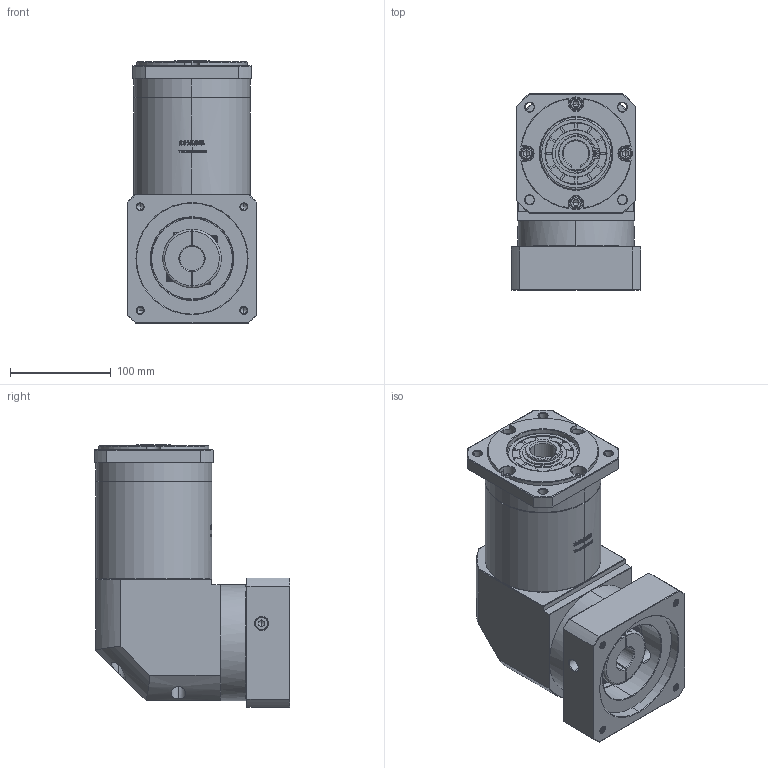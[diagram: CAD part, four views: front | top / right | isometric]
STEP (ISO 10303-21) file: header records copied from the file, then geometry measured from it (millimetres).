
FILE_DESCRIPTION (( 'STEP AP214' ), '1' );
FILE_NAME ('ZFR120A-K25-L3-24-110-145-M8.step', '2023-03-08T08:33:54', ( '' ), ( '' ), 'SwSTEP 2.0', 'SolidWorks 2016', '' );
FILE_SCHEMA (( 'AUTOMOTIVE_DESIGN' ));
Length unit declared in the file: millimetre
Products named in the file (1): ZFR120A-K25-L3-24-110-145-M8
Bounding box: 128 x 193.9 x 260 mm (x, y, z)
Volume: 3523231.1 mm3; surface area: 269859.6 mm2
Topology: 6 solids, 6 shells, 2814 faces, 7533 edges, 4864 vertices
Faces by surface type: plane 1477, bspline 597, cylinder 401, cone 331, torus 8
Entity records: 152464 total; most frequent: CARTESIAN_POINT 56813, ORIENTED_EDGE 15010, DIRECTION 10941, EDGE_CURVE 7505, VERTEX_POINT 4864, LINE 4697, VECTOR 4697, AXIS2_PLACEMENT_3D 3122
